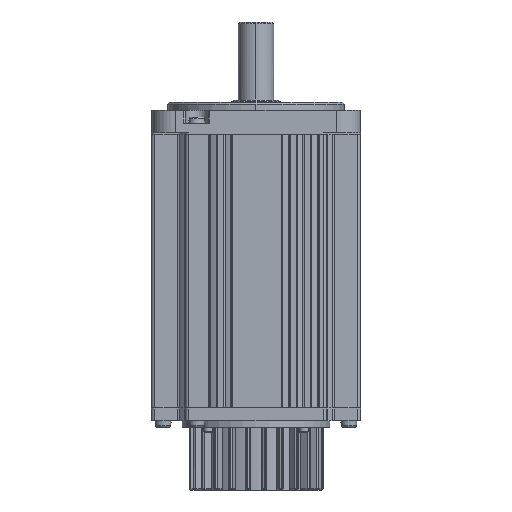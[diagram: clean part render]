
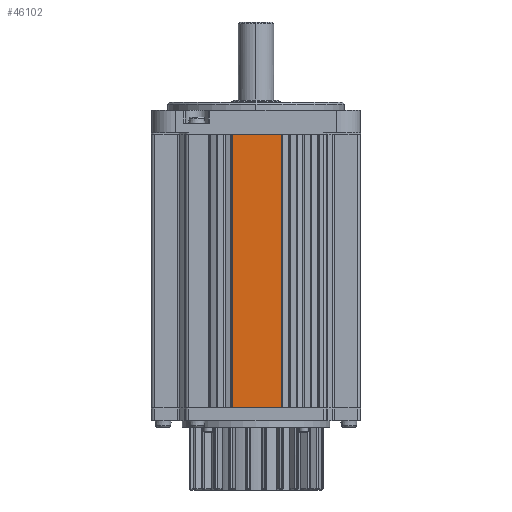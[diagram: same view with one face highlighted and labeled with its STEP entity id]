
A CAD part, front view. The second image highlights one B-rep face of the part: STEP entity #46102.
In plain terms, the highlighted planar face has unit normal (0, -1, 0).
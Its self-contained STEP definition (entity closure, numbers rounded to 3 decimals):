
#964 = VERTEX_POINT ( 'NONE', #12619 ) ;
#965 = VERTEX_POINT ( 'NONE', #12620 ) ;
#1053 = VERTEX_POINT ( 'NONE', #12708 ) ;
#1056 = VERTEX_POINT ( 'NONE', #12711 ) ;
#2906 = EDGE_CURVE ( 'NONE', #964, #965, #22098, .T. ) ;
#5440 = EDGE_CURVE ( 'NONE', #1053, #1056, #22384, .T. ) ;
#5597 = EDGE_CURVE ( 'NONE', #1056, #965, #22810, .T. ) ;
#5598 = EDGE_CURVE ( 'NONE', #964, #1053, #22812, .T. ) ;
#7279 = ORIENTED_EDGE ( 'NONE', *, *, #5440, .T. ) ;
#7280 = ORIENTED_EDGE ( 'NONE', *, *, #5597, .T. ) ;
#7281 = ORIENTED_EDGE ( 'NONE', *, *, #2906, .F. ) ;
#7282 = ORIENTED_EDGE ( 'NONE', *, *, #5598, .T. ) ;
#11618 = EDGE_LOOP ( 'NONE', ( #7279, #7280, #7281, #7282 ) ) ;
#12619 = CARTESIAN_POINT ( 'NONE',  ( 15.9, -65., -170. ) ) ;
#12620 = CARTESIAN_POINT ( 'NONE',  ( -14.9, -65., -170. ) ) ;
#12708 = CARTESIAN_POINT ( 'NONE',  ( 15.9, -65., 0. ) ) ;
#12711 = CARTESIAN_POINT ( 'NONE',  ( -14.9, -65., 0. ) ) ;
#19758 = CARTESIAN_POINT ( 'NONE',  ( -65., -65., -170. ) ) ;
#19760 = DIRECTION ( 'NONE',  ( -1., 0., 0. ) ) ;
#20315 = DIRECTION ( 'NONE',  ( -1., 0., 0. ) ) ;
#20321 = CARTESIAN_POINT ( 'NONE',  ( -65., -65., 0. ) ) ;
#22098 = LINE ( 'NONE', #19758, #22102 ) ;
#22102 = VECTOR ( 'NONE', #19760, 1000. ) ;
#22384 = LINE ( 'NONE', #20321, #22393 ) ;
#22393 = VECTOR ( 'NONE', #20315, 1000. ) ;
#22810 = LINE ( 'NONE', #23737, #22813 ) ;
#22812 = LINE ( 'NONE', #23739, #22815 ) ;
#22813 = VECTOR ( 'NONE', #23738, 1000. ) ;
#22815 = VECTOR ( 'NONE', #23740, 1000. ) ;
#23737 = CARTESIAN_POINT ( 'NONE',  ( -14.9, -65., -170. ) ) ;
#23738 = DIRECTION ( 'NONE',  ( 0., 0., -1. ) ) ;
#23739 = CARTESIAN_POINT ( 'NONE',  ( 15.9, -65., 0. ) ) ;
#23740 = DIRECTION ( 'NONE',  ( 0., 0., 1. ) ) ;
#32259 = AXIS2_PLACEMENT_3D ( 'NONE', #35787, #35796, #35797 ) ;
#34708 = FACE_OUTER_BOUND ( 'NONE', #11618, .T. ) ;
#35787 = CARTESIAN_POINT ( 'NONE',  ( -65., -65., -170. ) ) ;
#35794 = PLANE ( 'NONE',  #32259 ) ;
#35796 = DIRECTION ( 'NONE',  ( 0., 1., 0. ) ) ;
#35797 = DIRECTION ( 'NONE',  ( 0., 0., 1. ) ) ;
#46102 = ADVANCED_FACE ( 'NONE', ( #34708 ), #35794, .F. ) ;
